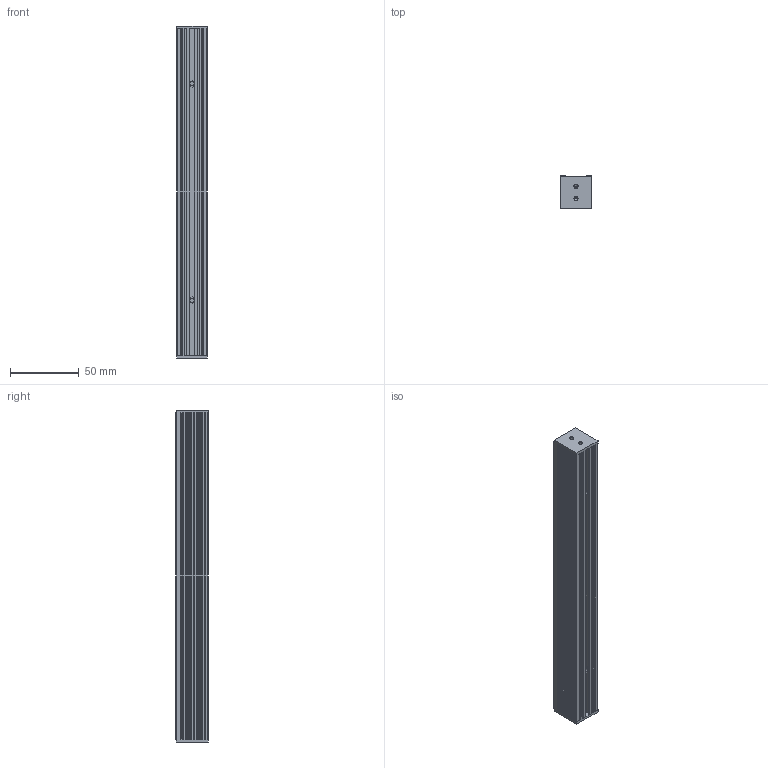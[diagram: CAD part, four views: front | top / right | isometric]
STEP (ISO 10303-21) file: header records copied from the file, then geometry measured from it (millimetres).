
FILE_DESCRIPTION((''),'2;1');
FILE_NAME('DSL','2020-03-23T',('ASUS'),(''),'PRO/ENGINEER BY PARAMETRIC TECHNOLOGY CORPORATION, 2008380','PRO/ENGINEER BY PARAMETRIC TECHNOLOGY CORPORATION, 2008380','');
FILE_SCHEMA(('CONFIG_CONTROL_DESIGN'));
Length unit declared in the file: millimetre
Products named in the file (1): DSL
Bounding box: 22 x 24.02 x 242 mm (x, y, z)
Volume: 111598.8 mm3; surface area: 43480.7 mm2
Topology: 1 solids, 5 shells, 283 faces, 720 edges, 465 vertices
Faces by surface type: plane 177, cylinder 86, cone 20
Entity records: 8558 total; most frequent: CARTESIAN_POINT 1612, DIRECTION 1425, ORIENTED_EDGE 1408, EDGE_CURVE 712, VECTOR 513, LINE 513, VERTEX_POINT 465, AXIS2_PLACEMENT_3D 456
